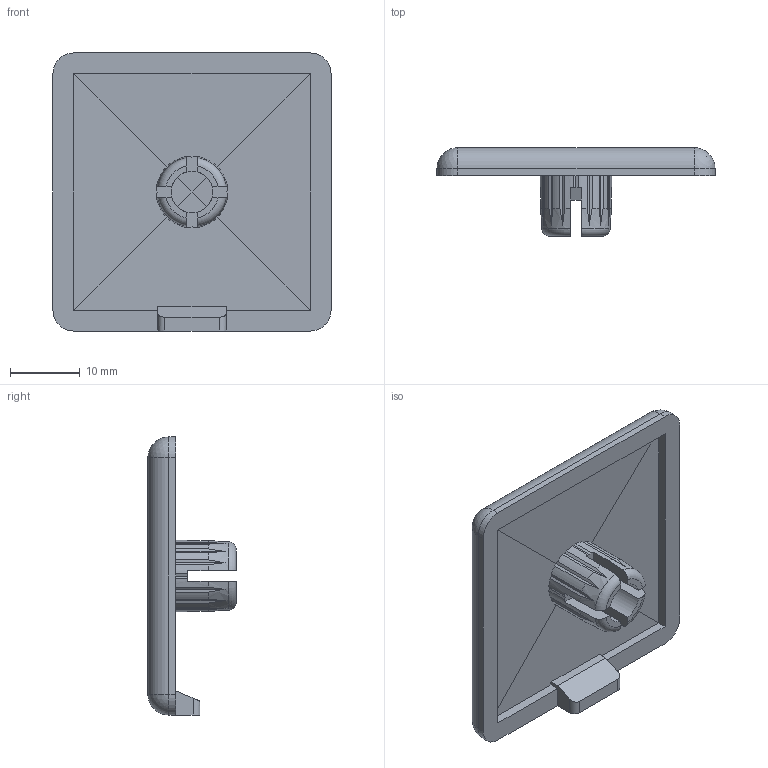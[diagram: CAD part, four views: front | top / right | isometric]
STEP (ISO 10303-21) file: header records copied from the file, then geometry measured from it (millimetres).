
FILE_DESCRIPTION(/* description */ ('STEP AP203'),/* implementation_level */ '2;1');
FILE_NAME(/* name */ 'Plastic End Cap - 40 Series - 40x40.step',/* time_stamp */ '2025-05-14T19:17:01+03:00',/* author */ (''),/* organization */ (''),/* preprocessor_version */ 'ST-DEVELOPER v20.1',/* originating_system */ 'Autodesk Translation Framework v14.4.0.0',/* authorisation */ '');
FILE_SCHEMA (('AUTOMOTIVE_DESIGN { 1 0 10303 214 3 1 1 }'));
Length unit declared in the file: millimetre
Products named in the file (1): 375.0300A
Bounding box: 40 x 12.7 x 40 mm (x, y, z)
Volume: 5007.8 mm3; surface area: 4393.6 mm2
Topology: 1 solids, 1 shells, 111 faces, 309 edges, 199 vertices
Faces by surface type: plane 72, cylinder 27, sphere 4, cone 4, torus 4
Full cylindrical faces by diameter (mm): 6 x1
Entity records: 3898 total; most frequent: CARTESIAN_POINT 1039, ORIENTED_EDGE 616, DIRECTION 570, EDGE_CURVE 308, VERTEX_POINT 199, AXIS2_PLACEMENT_3D 193, LINE 184, VECTOR 184
